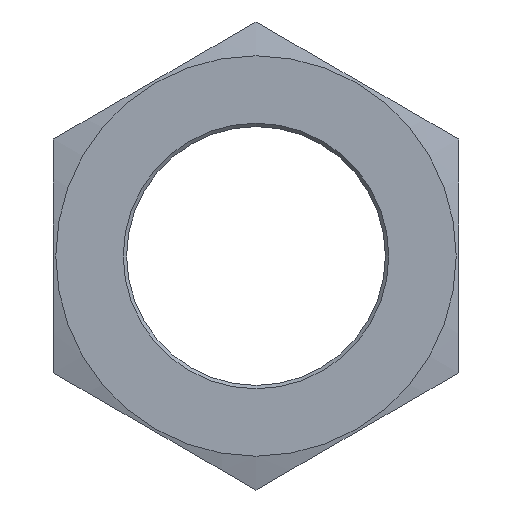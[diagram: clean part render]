
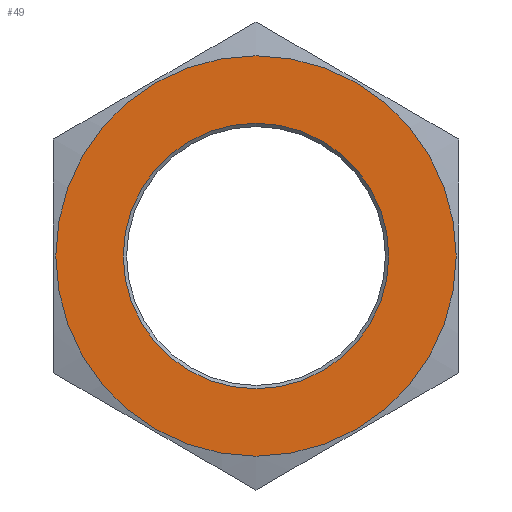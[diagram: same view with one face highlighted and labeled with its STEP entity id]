
A CAD part, left-side view. The second image highlights one B-rep face of the part: STEP entity #49.
In plain terms, the highlighted planar face has unit normal (-1, 0, 0).
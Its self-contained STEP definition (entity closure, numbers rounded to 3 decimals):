
#49 = ADVANCED_FACE( '', ( #106, #107 ), #108, .T. );
#106 = FACE_OUTER_BOUND( '', #175, .T. );
#107 = FACE_BOUND( '', #176, .T. );
#108 = PLANE( '', #177 );
#175 = EDGE_LOOP( '', ( #252 ) );
#176 = EDGE_LOOP( '', ( #253 ) );
#177 = AXIS2_PLACEMENT_3D( '', #254, #255, #256 );
#252 = ORIENTED_EDGE( '', *, *, #364, .T. );
#253 = ORIENTED_EDGE( '', *, *, #356, .T. );
#254 = CARTESIAN_POINT( '', ( -32.5, -30., -17.321 ) );
#255 = DIRECTION( '', ( -1., 0., 0. ) );
#256 = DIRECTION( '', ( 0., -1., 0. ) );
#356 = EDGE_CURVE( '', #407, #407, #408, .F. );
#364 = EDGE_CURVE( '', #421, #421, #422, .T. );
#407 = VERTEX_POINT( '', #492 );
#408 = CIRCLE( '', #493, 19.65 );
#421 = VERTEX_POINT( '', #526 );
#422 = CIRCLE( '', #527, 29.641 );
#492 = CARTESIAN_POINT( '', ( -32.5, -19.65, 0. ) );
#493 = AXIS2_PLACEMENT_3D( '', #640, #641, #642 );
#526 = CARTESIAN_POINT( '', ( -32.5, 0., 29.641 ) );
#527 = AXIS2_PLACEMENT_3D( '', #648, #649, #650 );
#640 = CARTESIAN_POINT( '', ( -32.5, 0., 0. ) );
#641 = DIRECTION( '', ( -1., 0., 0. ) );
#642 = DIRECTION( '', ( 0., -1., 0. ) );
#648 = CARTESIAN_POINT( '', ( -32.5, 0., 0. ) );
#649 = DIRECTION( '', ( -1., 0., 0. ) );
#650 = DIRECTION( '', ( 0., 0., 1. ) );
